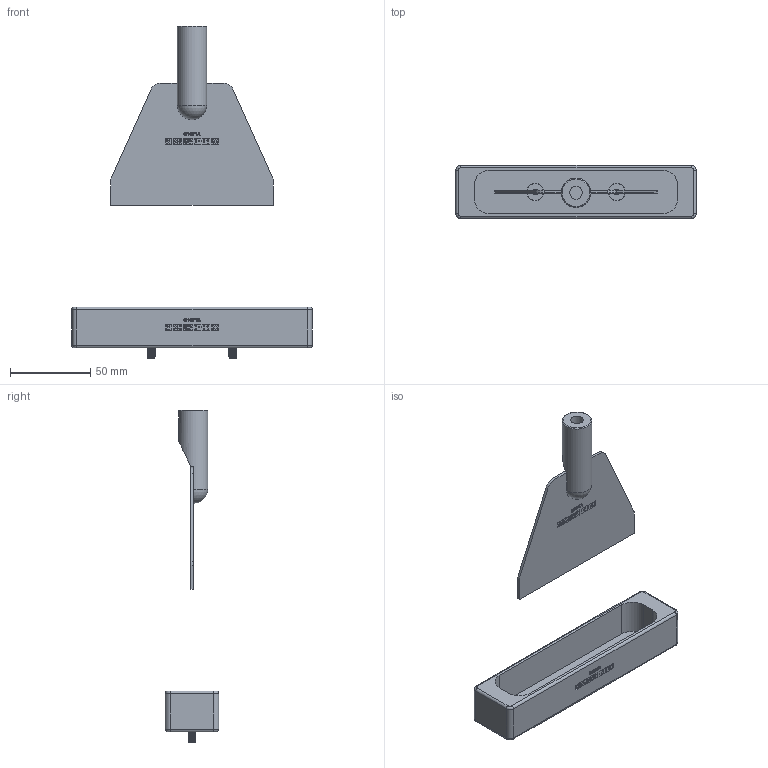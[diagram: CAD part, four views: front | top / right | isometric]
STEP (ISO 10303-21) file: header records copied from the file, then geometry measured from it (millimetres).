
FILE_DESCRIPTION((''),'2;1');
FILE_NAME('F:\CAD files\Itr\3D MARKETING MODELS\GRIPS\G1071\G1071.stp','2017-04-19T15:09:57',('mlampen'),(''),'Autodesk Inventor 2010','Autodesk Inventor 2010','');
FILE_SCHEMA(('AUTOMOTIVE_DESIGN { 1 0 10303 214 1 1 1 1 }'));
Length unit declared in the file: inch
Products named in the file (3): Assembly1; Part2; Part4
Assembly tree (2 placements, depth 2):
  Assembly1
    Part2
    Part4
Bounding box: 149.86 x 33.34 x 207.01 mm (x, y, z)
Volume: 72197.8 mm3; surface area: 42076.2 mm2
Topology: 4 solids, 8 shells, 2648 faces, 7458 edges, 4933 vertices
Faces by surface type: plane 2393, cylinder 136, cone 103, torus 12, bspline 3, sphere 1
Full cylindrical faces by diameter (mm): 3.551 x6, 4.166 x6, 4.178 x14, 4.826 x12, 5.842 x2, 7.938 x1, 18.288 x1
Entity records: 85842 total; most frequent: CARTESIAN_POINT 17885, ORIENTED_EDGE 14676, DIRECTION 12772, EDGE_CURVE 7338, VECTOR 6804, LINE 6804, VERTEX_POINT 4919, AXIS2_PLACEMENT_3D 2984
